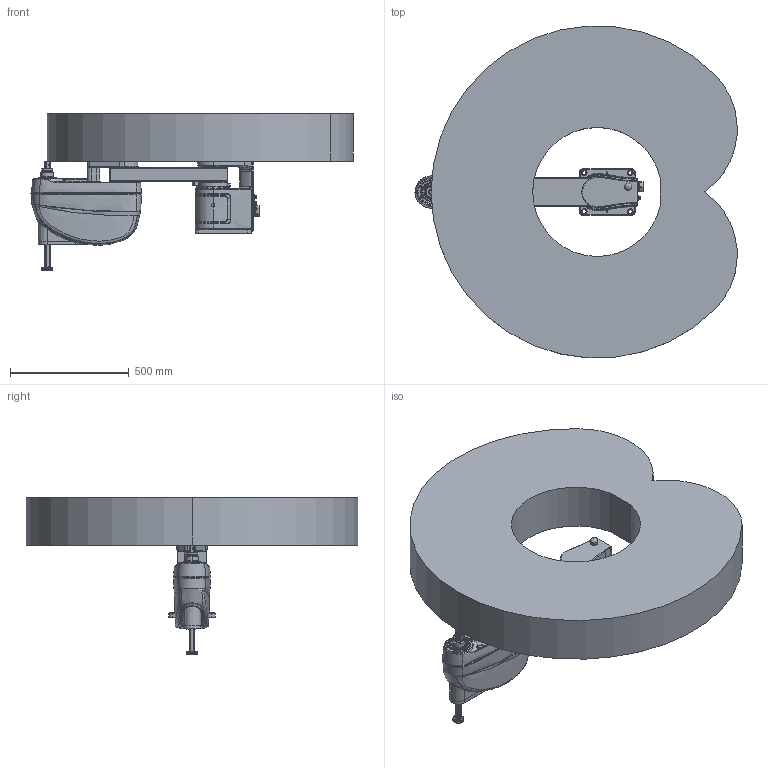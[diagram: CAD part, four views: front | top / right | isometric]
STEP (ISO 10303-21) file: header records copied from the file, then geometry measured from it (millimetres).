
FILE_DESCRIPTION (( 'STEP AP214' ), '1' );
FILE_NAME ('AIR12SC700Z20A-OH-俋楷耀倰.STP', '2024-02-06T05:42:17', ( 'Windows User' ), ( 'P R C' ), 'SwSTEP 2.0', 'SolidWorks 2011', '' );
FILE_SCHEMA (( 'AUTOMOTIVE_DESIGN' ));
Length unit declared in the file: millimetre
Products named in the file (6): AIR12SC700Z20A-OH-俋楷耀倰; AIR12SC700Z20A-OH-Base; AIR12SC700Z20A-OH-Upper-arm; AIR12SC700Z20A-OH-Lower-arm; AIR12SC700Z20A-OH-Screw spline; AIR12SC-700Z20A-OH-Working range
Assembly tree (5 placements, depth 2):
  AIR12SC700Z20A-OH-俋楷耀倰
    AIR12SC700Z20A-OH-Screw spline
    AIR12SC700Z20A-OH-Base
    AIR12SC700Z20A-OH-Upper-arm
    AIR12SC-700Z20A-OH-Working range
    AIR12SC700Z20A-OH-Lower-arm
Bounding box: 1357 x 1397.8 x 660.5 mm (x, y, z)
Volume: 272779803.5 mm3; surface area: 5107654.9 mm2
Topology: 54 solids, 62 shells, 4020 faces, 9861 edges, 6246 vertices
Faces by surface type: plane 1661, cylinder 1296, cone 594, bspline 290, torus 136, sphere 43
Entity records: 194564 total; most frequent: CARTESIAN_POINT 76441, DIRECTION 19655, ORIENTED_EDGE 19432, EDGE_CURVE 9716, AXIS2_PLACEMENT_3D 7456, VERTEX_POINT 6212, LINE 4743, VECTOR 4743
